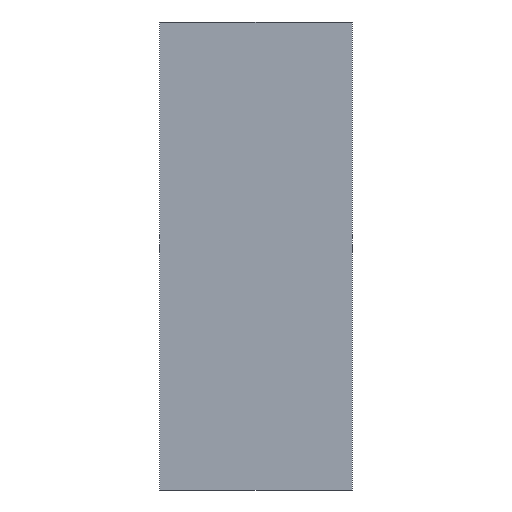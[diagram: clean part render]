
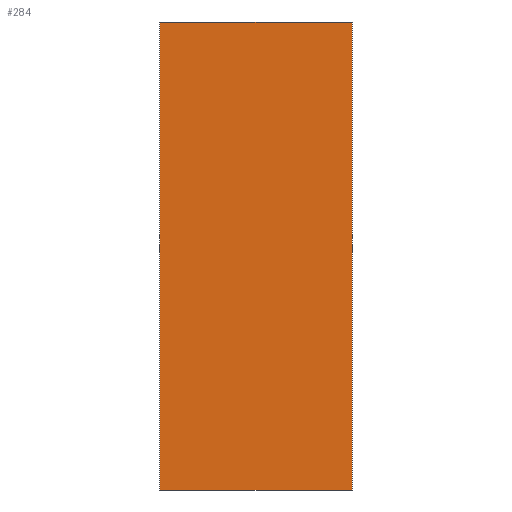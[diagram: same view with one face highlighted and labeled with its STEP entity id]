
A CAD part, left-side view. The second image highlights one B-rep face of the part: STEP entity #284.
In plain terms, the highlighted planar face has unit normal (-1, 0, 0).
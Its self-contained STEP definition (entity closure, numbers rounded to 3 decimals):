
#32 = PLANE('',#33);
#33 = AXIS2_PLACEMENT_3D('',#34,#35,#36);
#34 = CARTESIAN_POINT('',(4.125,-8.975,1.3));
#35 = DIRECTION('',(0.,1.,0.));
#36 = DIRECTION('',(0.,0.,1.));
#57 = VERTEX_POINT('',#58);
#58 = CARTESIAN_POINT('',(1.325,-8.975,1.3));
#72 = PLANE('',#73);
#73 = AXIS2_PLACEMENT_3D('',#74,#75,#76);
#74 = CARTESIAN_POINT('',(4.125,-8.975,1.3));
#75 = DIRECTION('',(0.,0.,1.));
#76 = DIRECTION('',(0.,1.,0.));
#84 = EDGE_CURVE('',#57,#85,#87,.T.);
#85 = VERTEX_POINT('',#86);
#86 = CARTESIAN_POINT('',(1.325,-8.975,18.3));
#87 = SURFACE_CURVE('',#88,(#92,#99),.PCURVE_S1.);
#88 = LINE('',#89,#90);
#89 = CARTESIAN_POINT('',(1.325,-8.975,1.3));
#90 = VECTOR('',#91,1.);
#91 = DIRECTION('',(0.,0.,1.));
#92 = PCURVE('',#32,#93);
#93 = DEFINITIONAL_REPRESENTATION('',(#94),#98);
#94 = LINE('',#95,#96);
#95 = CARTESIAN_POINT('',(0.,-2.8));
#96 = VECTOR('',#97,1.);
#97 = DIRECTION('',(1.,0.));
#98 = ( GEOMETRIC_REPRESENTATION_CONTEXT(2) 
PARAMETRIC_REPRESENTATION_CONTEXT() REPRESENTATION_CONTEXT('2D SPACE',''
  ) );
#99 = PCURVE('',#100,#105);
#100 = PLANE('',#101);
#101 = AXIS2_PLACEMENT_3D('',#102,#103,#104);
#102 = CARTESIAN_POINT('',(1.325,-8.975,1.3));
#103 = DIRECTION('',(-1.,0.,0.));
#104 = DIRECTION('',(0.,0.,1.));
#105 = DEFINITIONAL_REPRESENTATION('',(#106),#110);
#106 = LINE('',#107,#108);
#107 = CARTESIAN_POINT('',(0.,0.));
#108 = VECTOR('',#109,1.);
#109 = DIRECTION('',(1.,0.));
#110 = ( GEOMETRIC_REPRESENTATION_CONTEXT(2) 
PARAMETRIC_REPRESENTATION_CONTEXT() REPRESENTATION_CONTEXT('2D SPACE',''
  ) );
#126 = PLANE('',#127);
#127 = AXIS2_PLACEMENT_3D('',#128,#129,#130);
#128 = CARTESIAN_POINT('',(4.125,-8.975,18.3));
#129 = DIRECTION('',(0.,0.,1.));
#130 = DIRECTION('',(0.,1.,0.));
#152 = PLANE('',#153);
#153 = AXIS2_PLACEMENT_3D('',#154,#155,#156);
#154 = CARTESIAN_POINT('',(4.125,-1.975,1.3));
#155 = DIRECTION('',(0.,1.,0.));
#156 = DIRECTION('',(0.,0.,1.));
#172 = VERTEX_POINT('',#173);
#173 = CARTESIAN_POINT('',(1.325,-1.975,1.3));
#194 = EDGE_CURVE('',#172,#195,#197,.T.);
#195 = VERTEX_POINT('',#196);
#196 = CARTESIAN_POINT('',(1.325,-1.975,18.3));
#197 = SURFACE_CURVE('',#198,(#202,#209),.PCURVE_S1.);
#198 = LINE('',#199,#200);
#199 = CARTESIAN_POINT('',(1.325,-1.975,1.3));
#200 = VECTOR('',#201,1.);
#201 = DIRECTION('',(0.,0.,1.));
#202 = PCURVE('',#152,#203);
#203 = DEFINITIONAL_REPRESENTATION('',(#204),#208);
#204 = LINE('',#205,#206);
#205 = CARTESIAN_POINT('',(0.,-2.8));
#206 = VECTOR('',#207,1.);
#207 = DIRECTION('',(1.,0.));
#208 = ( GEOMETRIC_REPRESENTATION_CONTEXT(2) 
PARAMETRIC_REPRESENTATION_CONTEXT() REPRESENTATION_CONTEXT('2D SPACE',''
  ) );
#209 = PCURVE('',#100,#210);
#210 = DEFINITIONAL_REPRESENTATION('',(#211),#215);
#211 = LINE('',#212,#213);
#212 = CARTESIAN_POINT('',(0.,7.));
#213 = VECTOR('',#214,1.);
#214 = DIRECTION('',(1.,0.));
#215 = ( GEOMETRIC_REPRESENTATION_CONTEXT(2) 
PARAMETRIC_REPRESENTATION_CONTEXT() REPRESENTATION_CONTEXT('2D SPACE',''
  ) );
#284 = ADVANCED_FACE('',(#285),#100,.T.);
#285 = FACE_BOUND('',#286,.T.);
#286 = EDGE_LOOP('',(#287,#308,#309,#330));
#287 = ORIENTED_EDGE('',*,*,#288,.F.);
#288 = EDGE_CURVE('',#57,#172,#289,.T.);
#289 = SURFACE_CURVE('',#290,(#294,#301),.PCURVE_S1.);
#290 = LINE('',#291,#292);
#291 = CARTESIAN_POINT('',(1.325,-8.975,1.3));
#292 = VECTOR('',#293,1.);
#293 = DIRECTION('',(0.,1.,0.));
#294 = PCURVE('',#100,#295);
#295 = DEFINITIONAL_REPRESENTATION('',(#296),#300);
#296 = LINE('',#297,#298);
#297 = CARTESIAN_POINT('',(0.,0.));
#298 = VECTOR('',#299,1.);
#299 = DIRECTION('',(0.,1.));
#300 = ( GEOMETRIC_REPRESENTATION_CONTEXT(2) 
PARAMETRIC_REPRESENTATION_CONTEXT() REPRESENTATION_CONTEXT('2D SPACE',''
  ) );
#301 = PCURVE('',#72,#302);
#302 = DEFINITIONAL_REPRESENTATION('',(#303),#307);
#303 = LINE('',#304,#305);
#304 = CARTESIAN_POINT('',(0.,2.8));
#305 = VECTOR('',#306,1.);
#306 = DIRECTION('',(1.,0.));
#307 = ( GEOMETRIC_REPRESENTATION_CONTEXT(2) 
PARAMETRIC_REPRESENTATION_CONTEXT() REPRESENTATION_CONTEXT('2D SPACE',''
  ) );
#308 = ORIENTED_EDGE('',*,*,#84,.T.);
#309 = ORIENTED_EDGE('',*,*,#310,.T.);
#310 = EDGE_CURVE('',#85,#195,#311,.T.);
#311 = SURFACE_CURVE('',#312,(#316,#323),.PCURVE_S1.);
#312 = LINE('',#313,#314);
#313 = CARTESIAN_POINT('',(1.325,-8.975,18.3));
#314 = VECTOR('',#315,1.);
#315 = DIRECTION('',(0.,1.,0.));
#316 = PCURVE('',#100,#317);
#317 = DEFINITIONAL_REPRESENTATION('',(#318),#322);
#318 = LINE('',#319,#320);
#319 = CARTESIAN_POINT('',(17.,0.));
#320 = VECTOR('',#321,1.);
#321 = DIRECTION('',(0.,1.));
#322 = ( GEOMETRIC_REPRESENTATION_CONTEXT(2) 
PARAMETRIC_REPRESENTATION_CONTEXT() REPRESENTATION_CONTEXT('2D SPACE',''
  ) );
#323 = PCURVE('',#126,#324);
#324 = DEFINITIONAL_REPRESENTATION('',(#325),#329);
#325 = LINE('',#326,#327);
#326 = CARTESIAN_POINT('',(0.,2.8));
#327 = VECTOR('',#328,1.);
#328 = DIRECTION('',(1.,0.));
#329 = ( GEOMETRIC_REPRESENTATION_CONTEXT(2) 
PARAMETRIC_REPRESENTATION_CONTEXT() REPRESENTATION_CONTEXT('2D SPACE',''
  ) );
#330 = ORIENTED_EDGE('',*,*,#194,.F.);
